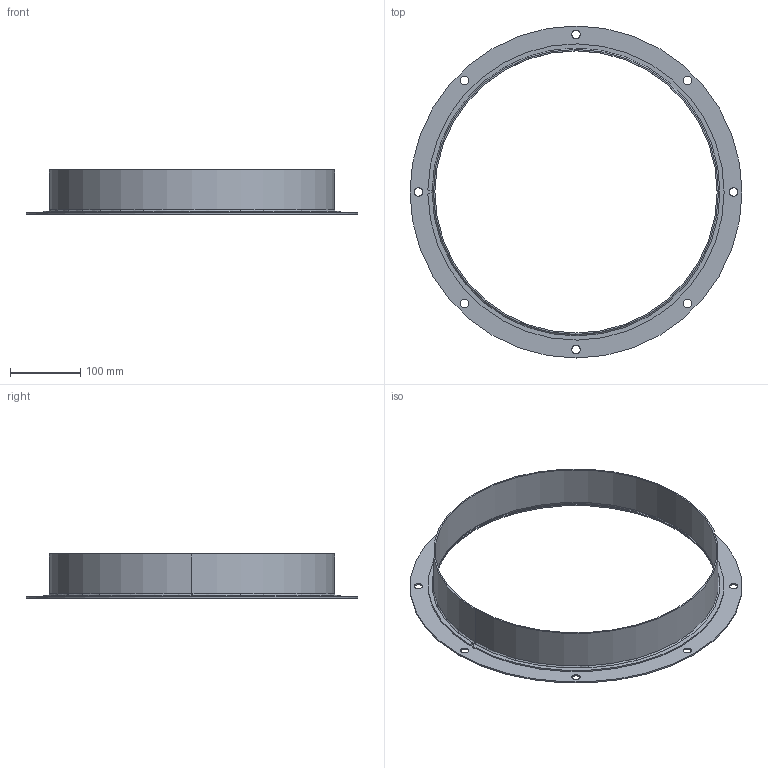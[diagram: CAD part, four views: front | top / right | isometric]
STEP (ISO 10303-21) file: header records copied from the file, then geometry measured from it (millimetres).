
FILE_DESCRIPTION(/* description */ ('Stub K-630'),/* implementation_level */ '2;1');
FILE_NAME(/* name */ 'Y:\VaultRobocze\Designs\2\0\02\900 260\2 002 900 260.stp',/* time_stamp */ '2018-03-30T10:44:49+02:00',/* author */ ('TomaszCie'),/* organization */ (''),/* preprocessor_version */ 'ST-DEVELOPER v16.13',/* originating_system */ 'Autodesk Inventor 2018',/* authorisation */ '');
FILE_SCHEMA (('AUTOMOTIVE_DESIGN { 1 0 10303 214 3 1 1 }'));
Length unit declared in the file: millimetre
Products named in the file (3): 2 002 900 260; 2 002 900 261; 2 002 900 262
Assembly tree (2 placements, depth 2):
  2 002 900 260
    2 002 900 261
    2 002 900 262
Bounding box: 474 x 474 x 63 mm (x, y, z)
Volume: 267491.5 mm3; surface area: 279065.4 mm2
Topology: 2 solids, 2 shells, 24 faces, 58 edges, 38 vertices
Faces by surface type: cylinder 13, plane 9, torus 2
Full cylindrical faces by diameter (mm): 12 x8, 403 x1, 404 x1, 407 x1, 474 x1
Entity records: 822 total; most frequent: DIRECTION 138, CARTESIAN_POINT 124, ORIENTED_EDGE 96, AXIS2_PLACEMENT_3D 62, EDGE_LOOP 52, EDGE_CURVE 48, VERTEX_POINT 38, CIRCLE 30
